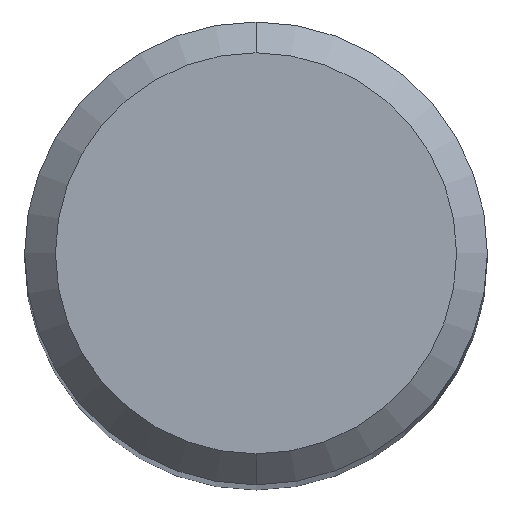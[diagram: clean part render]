
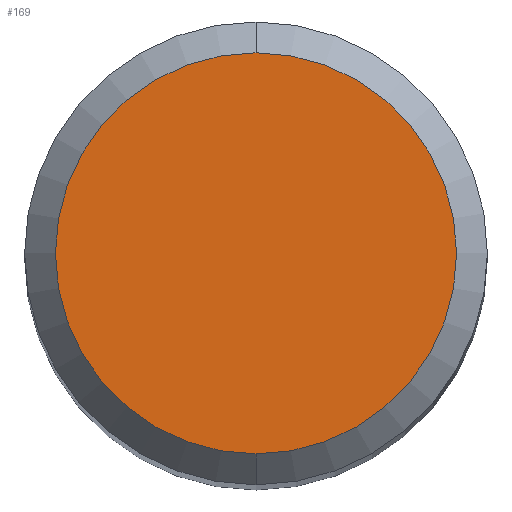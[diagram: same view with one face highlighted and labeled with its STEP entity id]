
A CAD part, top view. The second image highlights one B-rep face of the part: STEP entity #169.
In plain terms, the highlighted free-form (B-spline) face has degree [1, 1] with [2, 2] control points.
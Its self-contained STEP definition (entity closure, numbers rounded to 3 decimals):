
#20=CARTESIAN_POINT('',(0.,0.,0.));
#21=DIRECTION('',(0.,0.,1.));
#22=DIRECTION('',(0.,1.,0.));
#23=AXIS2_PLACEMENT_3D('',#20,#21,#22);
#25=CARTESIAN_POINT('',(0.,0.,0.));
#26=DIRECTION('',(0.,0.,-1.));
#27=DIRECTION('',(0.,1.,0.));
#28=AXIS2_PLACEMENT_3D('',#25,#26,#27);
#139=CARTESIAN_POINT('',(0.,2.6,0.));
#141=VERTEX_POINT('',#139);
#143=CARTESIAN_POINT('',(0.,-2.6,0.));
#145=VERTEX_POINT('',#143);
#158=CARTESIAN_POINT('',(2.704,2.704,0.));
#159=CARTESIAN_POINT('',(-2.704,2.704,0.));
#160=CARTESIAN_POINT('',(2.704,-2.704,0.));
#161=CARTESIAN_POINT('',(-2.704,-2.704,0.));
#162=B_SPLINE_SURFACE_WITH_KNOTS('',1,1,((#158,#159),(#160,#161)),.UNSPECIFIED.,
.F.,.F.,.F.,(2,2),(2,2),(-2.704,2.704),(-2.704,2.704),.UNSPECIFIED.);
#164=ORIENTED_EDGE('',*,*,#163,.F.);
#166=ORIENTED_EDGE('',*,*,#165,.T.);
#167=EDGE_LOOP('',(#164,#166));
#168=FACE_OUTER_BOUND('',#167,.F.);
#24=CIRCLE('',#23,2.6);
#29=CIRCLE('',#28,2.6);
#163=EDGE_CURVE('',#141,#145,#24,.T.);
#165=EDGE_CURVE('',#141,#145,#29,.T.);
#169=ADVANCED_FACE('',(#168),#162,.F.);
